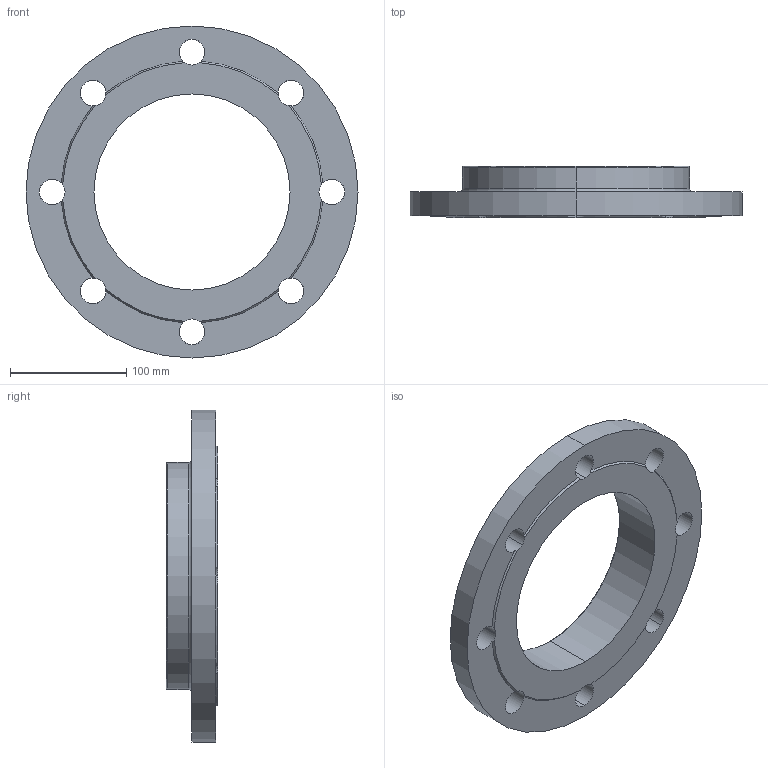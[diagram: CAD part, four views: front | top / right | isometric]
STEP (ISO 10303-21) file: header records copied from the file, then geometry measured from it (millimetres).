
FILE_DESCRIPTION (( 'STEP AP203' ), '1' );
FILE_NAME ('3D_R193_PN10-40_DN150_176624850.STEP', '2024-07-09T16:07:11', ( '' ), ( '' ), 'SwSTEP 2.0', 'SolidWorks 2024', '' );
FILE_SCHEMA (( 'CONFIG_CONTROL_DESIGN' ));
Length unit declared in the file: millimetre
Products named in the file (1): 3D_R193_PN10-40_DN150_176624850
Bounding box: 285 x 44 x 285 mm (x, y, z)
Volume: 983054.2 mm3; surface area: 142686 mm2
Topology: 1 solids, 1 shells, 40 faces, 126 edges, 82 vertices
Faces by surface type: cylinder 22, cone 10, torus 4, plane 4
Entity records: 1577 total; most frequent: CARTESIAN_POINT 297, DIRECTION 278, ORIENTED_EDGE 252, AXIS2_PLACEMENT_3D 127, EDGE_CURVE 126, CIRCLE 86, VERTEX_POINT 82, EDGE_LOOP 52
